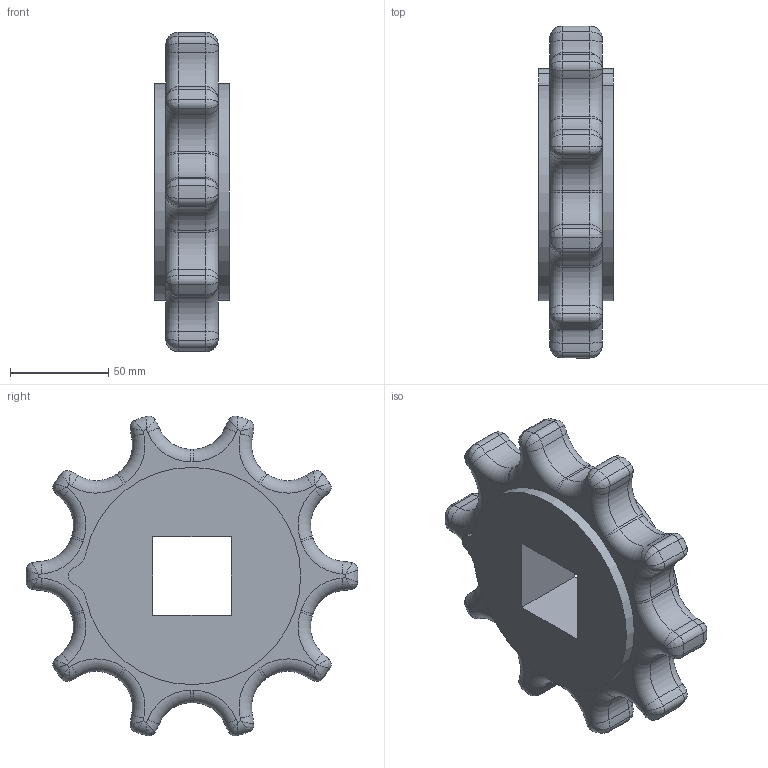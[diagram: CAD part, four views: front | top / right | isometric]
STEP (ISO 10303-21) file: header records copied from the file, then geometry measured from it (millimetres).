
FILE_DESCRIPTION((''),'2;1');
FILE_NAME('S3000_SPROCKET_65X15_40_SQ','2008-12-12T',('jmumphre'),(''),'PRO/ENGINEER BY PARAMETRIC TECHNOLOGY CORPORATION, 2008150','PRO/ENGINEER BY PARAMETRIC TECHNOLOGY CORPORATION, 2008150','');
FILE_SCHEMA(('CONFIG_CONTROL_DESIGN'));
Length unit declared in the file: inch
Products named in the file (1): S3000_SPROCKET_65X15_40_SQ
Bounding box: 38.1 x 169.03 x 162.87 mm (x, y, z)
Volume: 482186 mm3; surface area: 54618 mm2
Topology: 1 solids, 1 shells, 256 faces, 556 edges, 304 vertices
Faces by surface type: torus 100, cylinder 98, bspline 40, plane 18
Entity records: 9440 total; most frequent: CARTESIAN_POINT 3936, DIRECTION 1244, ORIENTED_EDGE 1112, EDGE_CURVE 556, AXIS2_PLACEMENT_3D 552, CIRCLE 336, VERTEX_POINT 304, EDGE_LOOP 260
